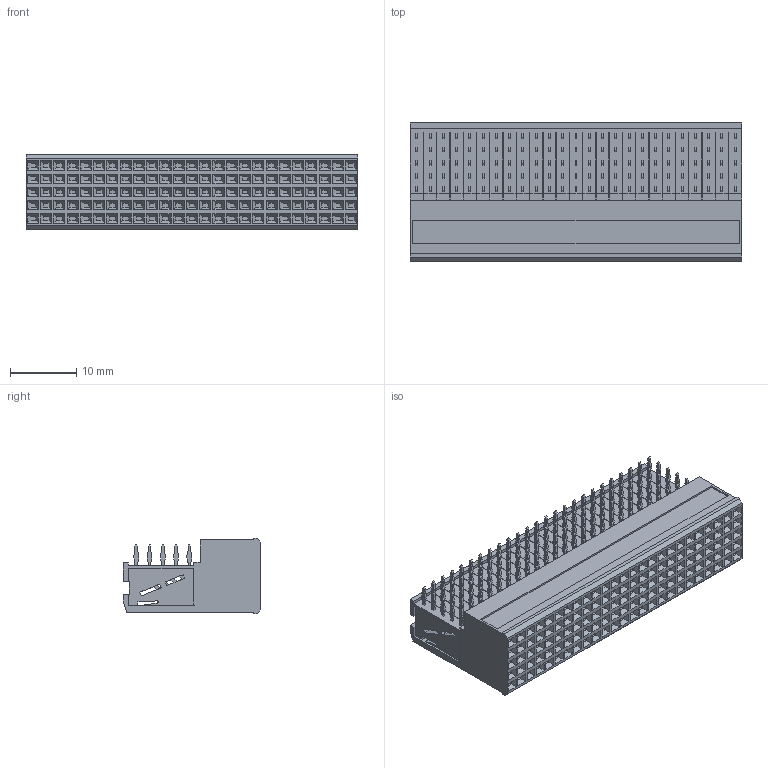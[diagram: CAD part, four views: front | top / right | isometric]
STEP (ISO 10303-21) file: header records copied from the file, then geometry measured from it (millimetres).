
FILE_DESCRIPTION (( 'STEP AP214' ), '1' );
FILE_NAME ('9111-72B1251CB30U.STEP', '2024-07-16T08:00:11', ( '' ), ( '' ), 'SwSTEP 2.0', 'SolidWorks 2011', '' );
FILE_SCHEMA (( 'AUTOMOTIVE_DESIGN' ));
Length unit declared in the file: millimetre
Products named in the file (1): 9111-72B1251CB30U
Bounding box: 50 x 20.8 x 11.4 mm (x, y, z)
Volume: 7838.7 mm3; surface area: 8467.1 mm2
Topology: 1 solids, 1 shells, 4420 faces, 12149 edges, 7933 vertices
Faces by surface type: plane 3620, cylinder 800
Entity records: 184572 total; most frequent: CARTESIAN_POINT 26706, ORIENTED_EDGE 24298, DIRECTION 21790, EDGE_CURVE 12149, VECTOR 9948, LINE 9948, VERTEX_POINT 7933, AXIS2_PLACEMENT_3D 5921
